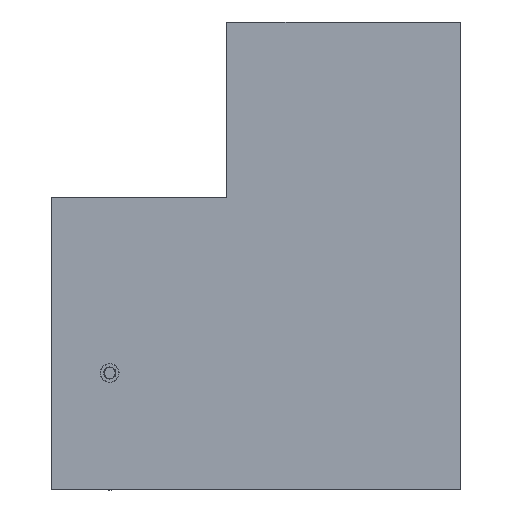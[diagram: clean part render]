
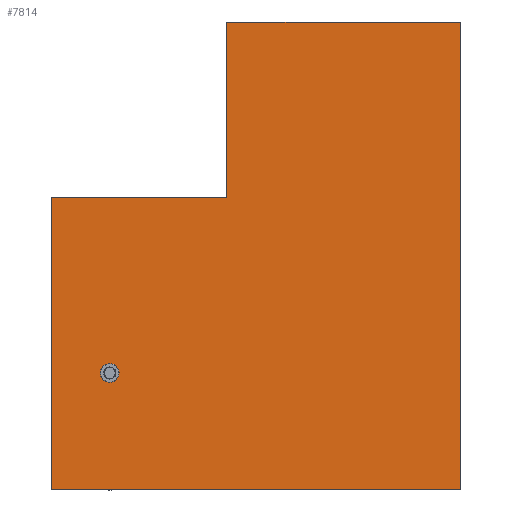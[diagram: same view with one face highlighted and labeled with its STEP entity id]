
A CAD part, left-side view. The second image highlights one B-rep face of the part: STEP entity #7814.
In plain terms, the highlighted planar face has unit normal (-1, 0, 0).
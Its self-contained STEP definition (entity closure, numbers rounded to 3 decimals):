
#104 = ORIENTED_EDGE ( 'NONE', *, *, #451, .F. ) ;
#236 = CARTESIAN_POINT ( 'NONE',  ( -10., -10., 30. ) ) ;
#312 = DIRECTION ( 'NONE',  ( 0., 0., 1. ) ) ;
#343 = CARTESIAN_POINT ( 'NONE',  ( -10., -10., -10. ) ) ;
#372 = DIRECTION ( 'NONE',  ( 0., -1., 0. ) ) ;
#373 = DIRECTION ( 'NONE',  ( 0., 0., 1. ) ) ;
#451 = EDGE_CURVE ( 'NONE', #8240, #4752, #3682, .T. ) ;
#484 = EDGE_CURVE ( 'NONE', #4752, #8240, #5156, .T. ) ;
#630 = DIRECTION ( 'NONE',  ( 0., 0., -1. ) ) ;
#788 = AXIS2_PLACEMENT_3D ( 'NONE', #4856, #4900, #630 ) ;
#931 = ORIENTED_EDGE ( 'NONE', *, *, #2496, .F. ) ;
#954 = EDGE_CURVE ( 'NONE', #3517, #6216, #4324, .T. ) ;
#959 = VECTOR ( 'NONE', #6898, 1000. ) ;
#973 = EDGE_CURVE ( 'NONE', #5643, #9104, #5673, .T. ) ;
#1126 = VERTEX_POINT ( 'NONE', #1949 ) ;
#1160 = CARTESIAN_POINT ( 'NONE',  ( -10., 25., -10. ) ) ;
#1258 = VECTOR ( 'NONE', #8692, 1000. ) ;
#1949 = CARTESIAN_POINT ( 'NONE',  ( -10., 25., 15. ) ) ;
#2003 = DIRECTION ( 'NONE',  ( -1., 0., 0. ) ) ;
#2148 = VECTOR ( 'NONE', #312, 1000. ) ;
#2274 = CARTESIAN_POINT ( 'NONE',  ( -10., 10., 15. ) ) ;
#2353 = CARTESIAN_POINT ( 'NONE',  ( -10., 25., 15. ) ) ;
#2360 = EDGE_CURVE ( 'NONE', #9104, #6216, #5280, .T. ) ;
#2496 = EDGE_CURVE ( 'NONE', #5632, #3517, #8969, .T. ) ;
#2626 = VECTOR ( 'NONE', #7046, 1000. ) ;
#2654 = DIRECTION ( 'NONE',  ( 0., 0., 1. ) ) ;
#2711 = CARTESIAN_POINT ( 'NONE',  ( -10., 10., 30. ) ) ;
#2764 = FACE_OUTER_BOUND ( 'NONE', #3588, .T. ) ;
#2801 = EDGE_CURVE ( 'NONE', #5643, #1126, #6657, .T. ) ;
#3092 = DIRECTION ( 'NONE',  ( 0., 1., 0. ) ) ;
#3511 = CARTESIAN_POINT ( 'NONE',  ( -10., -10., 30. ) ) ;
#3517 = VERTEX_POINT ( 'NONE', #2711 ) ;
#3588 = EDGE_LOOP ( 'NONE', ( #5614, #4804, #931, #6514, #6406, #3983 ) ) ;
#3682 = CIRCLE ( 'NONE', #8824, 0.8 ) ;
#3790 = LINE ( 'NONE', #6612, #4979 ) ;
#3809 = CARTESIAN_POINT ( 'NONE',  ( -10., 10., -10. ) ) ;
#3895 = CARTESIAN_POINT ( 'NONE',  ( -10., 20., 0. ) ) ;
#3983 = ORIENTED_EDGE ( 'NONE', *, *, #973, .T. ) ;
#4324 = LINE ( 'NONE', #5628, #2626 ) ;
#4752 = VERTEX_POINT ( 'NONE', #8245 ) ;
#4804 = ORIENTED_EDGE ( 'NONE', *, *, #954, .F. ) ;
#4856 = CARTESIAN_POINT ( 'NONE',  ( -10., 10., 30. ) ) ;
#4900 = DIRECTION ( 'NONE',  ( 1., 0., 0. ) ) ;
#4979 = VECTOR ( 'NONE', #3092, 1000. ) ;
#5156 = CIRCLE ( 'NONE', #7503, 0.8 ) ;
#5280 = LINE ( 'NONE', #236, #1258 ) ;
#5432 = EDGE_LOOP ( 'NONE', ( #104, #6501 ) ) ;
#5540 = PLANE ( 'NONE',  #788 ) ;
#5614 = ORIENTED_EDGE ( 'NONE', *, *, #2360, .T. ) ;
#5628 = CARTESIAN_POINT ( 'NONE',  ( -10., 10., 30. ) ) ;
#5632 = VERTEX_POINT ( 'NONE', #2274 ) ;
#5643 = VERTEX_POINT ( 'NONE', #1160 ) ;
#5673 = LINE ( 'NONE', #3809, #7790 ) ;
#5987 = EDGE_CURVE ( 'NONE', #5632, #1126, #3790, .T. ) ;
#6216 = VERTEX_POINT ( 'NONE', #3511 ) ;
#6313 = CARTESIAN_POINT ( 'NONE',  ( -10., 20., 0. ) ) ;
#6406 = ORIENTED_EDGE ( 'NONE', *, *, #2801, .F. ) ;
#6501 = ORIENTED_EDGE ( 'NONE', *, *, #484, .F. ) ;
#6514 = ORIENTED_EDGE ( 'NONE', *, *, #5987, .T. ) ;
#6612 = CARTESIAN_POINT ( 'NONE',  ( -10., 10., 15. ) ) ;
#6657 = LINE ( 'NONE', #2353, #2148 ) ;
#6718 = DIRECTION ( 'NONE',  ( -1., 0., 0. ) ) ;
#6898 = DIRECTION ( 'NONE',  ( 0., 0., 1. ) ) ;
#7009 = FACE_BOUND ( 'NONE', #5432, .T. ) ;
#7046 = DIRECTION ( 'NONE',  ( 0., -1., 0. ) ) ;
#7214 = CARTESIAN_POINT ( 'NONE',  ( -10., 20., 0.8 ) ) ;
#7489 = CARTESIAN_POINT ( 'NONE',  ( -10., 10., 30. ) ) ;
#7503 = AXIS2_PLACEMENT_3D ( 'NONE', #6313, #2003, #2654 ) ;
#7790 = VECTOR ( 'NONE', #372, 1000. ) ;
#7814 = ADVANCED_FACE ( 'NONE', ( #2764, #7009 ), #5540, .F. ) ;
#8240 = VERTEX_POINT ( 'NONE', #7214 ) ;
#8245 = CARTESIAN_POINT ( 'NONE',  ( -10., 20., -0.8 ) ) ;
#8692 = DIRECTION ( 'NONE',  ( 0., 0., 1. ) ) ;
#8824 = AXIS2_PLACEMENT_3D ( 'NONE', #3895, #6718, #373 ) ;
#8969 = LINE ( 'NONE', #7489, #959 ) ;
#9104 = VERTEX_POINT ( 'NONE', #343 ) ;
